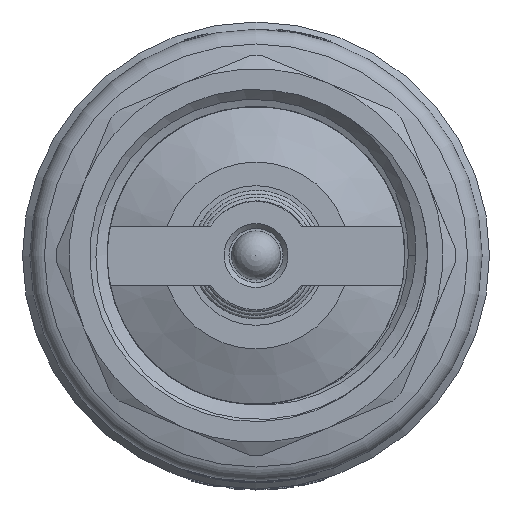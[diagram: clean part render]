
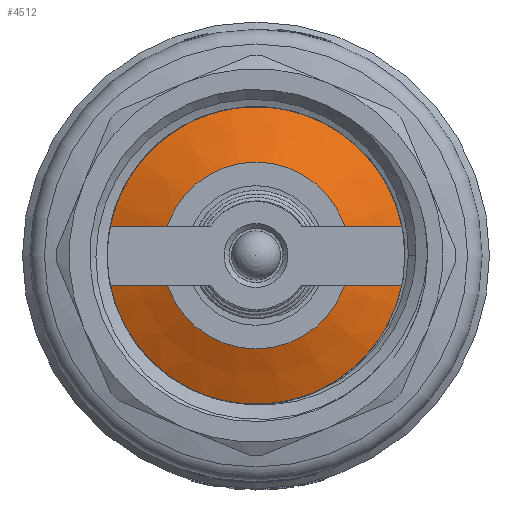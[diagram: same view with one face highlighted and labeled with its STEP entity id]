
A CAD part, left-side view. The second image highlights one B-rep face of the part: STEP entity #4512.
In plain terms, the highlighted conical face has half-angle 67.345 degrees and reference radius 12.375 mm.
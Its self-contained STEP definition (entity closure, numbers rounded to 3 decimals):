
#304=CONICAL_SURFACE('',#4982,12.375,1.175);
#501=CIRCLE('',#4980,9.5);
#502=CIRCLE('',#4981,9.5);
#503=CIRCLE('',#4983,15.25);
#504=CIRCLE('',#4984,15.25);
#768=FACE_OUTER_BOUND('',#1049,.T.);
#1049=EDGE_LOOP('',(#4124,#4125,#4126,#4127,#4128,#4129));
#1435=LINE('',#12560,#1703);
#1703=VECTOR('',#6160,12.375);
#2136=VERTEX_POINT('',#12551);
#2137=VERTEX_POINT('',#12552);
#2138=VERTEX_POINT('',#12556);
#2139=VERTEX_POINT('',#12557);
#2805=EDGE_CURVE('',#2136,#2137,#501,.T.);
#2806=EDGE_CURVE('',#2137,#2136,#502,.T.);
#2807=EDGE_CURVE('',#2138,#2139,#503,.T.);
#2808=EDGE_CURVE('',#2139,#2138,#504,.T.);
#2809=EDGE_CURVE('',#2139,#2137,#1435,.T.);
#4124=ORIENTED_EDGE('',*,*,#2807,.F.);
#4125=ORIENTED_EDGE('',*,*,#2808,.F.);
#4126=ORIENTED_EDGE('',*,*,#2809,.T.);
#4127=ORIENTED_EDGE('',*,*,#2806,.T.);
#4128=ORIENTED_EDGE('',*,*,#2805,.T.);
#4129=ORIENTED_EDGE('',*,*,#2809,.F.);
#4512=ADVANCED_FACE('',(#768),#304,.T.);
#4980=AXIS2_PLACEMENT_3D('',#12553,#6150,#6151);
#4981=AXIS2_PLACEMENT_3D('',#12554,#6152,#6153);
#4982=AXIS2_PLACEMENT_3D('',#12555,#6154,#6155);
#4983=AXIS2_PLACEMENT_3D('',#12558,#6156,#6157);
#4984=AXIS2_PLACEMENT_3D('',#12559,#6158,#6159);
#6150=DIRECTION('center_axis',(1.,0.,0.));
#6151=DIRECTION('ref_axis',(0.,0.,-1.));
#6152=DIRECTION('center_axis',(1.,0.,0.));
#6153=DIRECTION('ref_axis',(0.,0.,-1.));
#6154=DIRECTION('center_axis',(1.,0.,0.));
#6155=DIRECTION('ref_axis',(0.,1.,0.));
#6156=DIRECTION('center_axis',(1.,0.,0.));
#6157=DIRECTION('ref_axis',(0.,0.,-1.));
#6158=DIRECTION('center_axis',(1.,0.,0.));
#6159=DIRECTION('ref_axis',(0.,0.,-1.));
#6160=DIRECTION('',(-0.385,0.923,0.));
#12551=CARTESIAN_POINT('',(-0.2,9.5,0.));
#12552=CARTESIAN_POINT('',(-0.2,-9.5,0.));
#12553=CARTESIAN_POINT('Origin',(-0.2,0.,
0.));
#12554=CARTESIAN_POINT('Origin',(-0.2,0.,
0.));
#12555=CARTESIAN_POINT('Origin',(1.,0.,
0.));
#12556=CARTESIAN_POINT('',(2.2,15.25,0.));
#12557=CARTESIAN_POINT('',(2.2,-15.25,0.));
#12558=CARTESIAN_POINT('Origin',(2.2,0.,
0.));
#12559=CARTESIAN_POINT('Origin',(2.2,0.,
0.));
#12560=CARTESIAN_POINT('',(1.,-12.375,0.));
